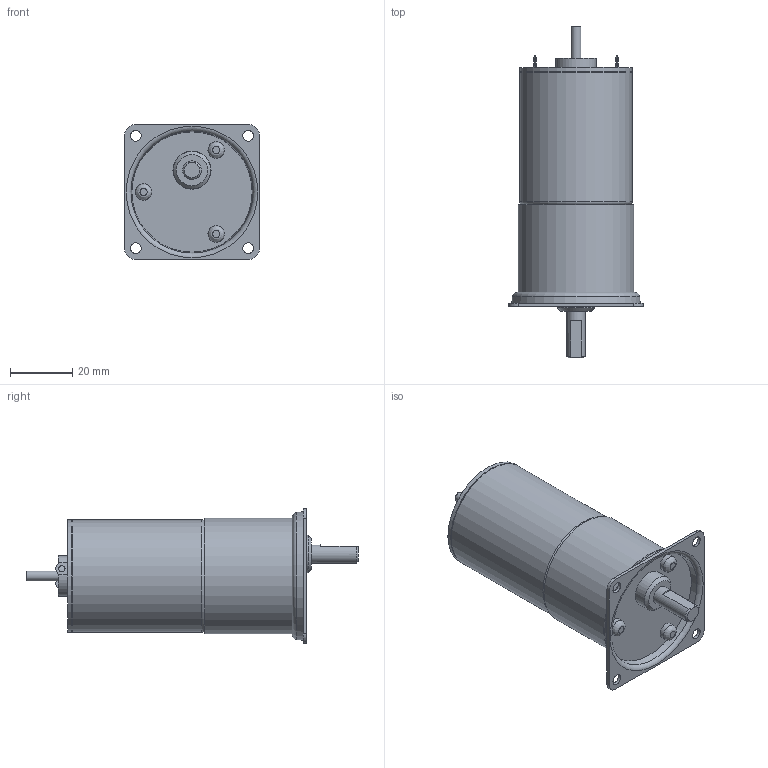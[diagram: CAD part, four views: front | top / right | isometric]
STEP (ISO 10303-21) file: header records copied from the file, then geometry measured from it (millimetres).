
FILE_DESCRIPTION((''),'2;1');
FILE_NAME('C:\Documents and Settings\SSEGAWA\デスクトップ\TP-3644L-PG-5.STP','2013-07-26T18:48:12',('SSEGAWA'),(''),'Autodesk Inventor 2010','Autodesk Inventor 2010','');
FILE_SCHEMA(('CONFIG_CONTROL_DESIGN'));
Length unit declared in the file: millimetre
Products named in the file (1): tp_3644l_pg_5_Shrinkwrap_1
Bounding box: 43 x 106.3 x 43 mm (x, y, z)
Volume: 78286.8 mm3; surface area: 14799.5 mm2
Topology: 1 solids, 12 shells, 105 faces, 209 edges, 139 vertices
Faces by surface type: plane 47, cylinder 27, bspline 23, torus 4, cone 4
Full cylindrical faces by diameter (mm): 3 x1, 3.175 x1, 3.5 x1, 4 x3, 5.3 x3, 6 x1, 12 x1, 12.2 x1, 13 x1, 35.6 x1, 36 x2, 37 x1
Entity records: 2825 total; most frequent: CARTESIAN_POINT 837, DIRECTION 397, ORIENTED_EDGE 278, AXIS2_PLACEMENT_3D 177, EDGE_LOOP 175, EDGE_CURVE 139, VERTEX_POINT 116, STYLED_ITEM 106
